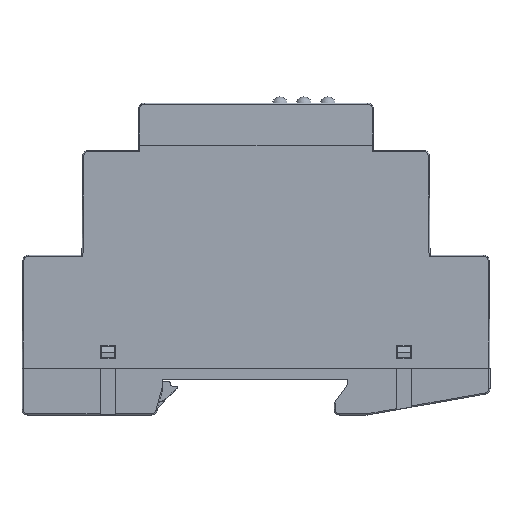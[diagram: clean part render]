
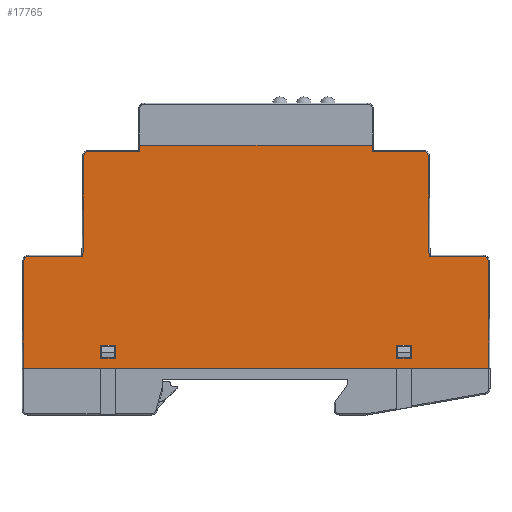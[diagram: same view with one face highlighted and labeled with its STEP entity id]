
A CAD part, top view. The second image highlights one B-rep face of the part: STEP entity #17765.
In plain terms, the highlighted planar face has unit normal (0, 0, 1).
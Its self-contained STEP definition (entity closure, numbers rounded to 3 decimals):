
#424=FACE_BOUND('',#2534,.T.);
#425=FACE_BOUND('',#2535,.T.);
#765=CIRCLE('',#19021,0.8);
#768=CIRCLE('',#19026,0.8);
#775=CIRCLE('',#19057,0.8);
#776=CIRCLE('',#19058,0.8);
#1597=FACE_OUTER_BOUND('',#2533,.T.);
#2533=EDGE_LOOP('',(#14299,#14300,#14301,#14302,#14303,#14304,#14305,#14306,
#14307,#14308,#14309,#14310,#14311,#14312,#14313,#14314));
#2534=EDGE_LOOP('',(#14315,#14316,#14317,#14318));
#2535=EDGE_LOOP('',(#14319,#14320,#14321,#14322));
#3057=LINE('',#25013,#4963);
#3061=LINE('',#25021,#4967);
#3077=LINE('',#25055,#4983);
#3082=LINE('',#25065,#4988);
#4215=LINE('',#27837,#6121);
#4267=LINE('',#28012,#6173);
#4268=LINE('',#28015,#6174);
#4270=LINE('',#28025,#6176);
#4272=LINE('',#28036,#6178);
#4274=LINE('',#28040,#6180);
#4293=LINE('',#28091,#6199);
#4294=LINE('',#28093,#6200);
#4307=LINE('',#28120,#6213);
#4308=LINE('',#28124,#6214);
#4309=LINE('',#28126,#6215);
#4310=LINE('',#28130,#6216);
#4311=LINE('',#28132,#6217);
#4312=LINE('',#28133,#6218);
#4313=LINE('',#28135,#6219);
#4314=LINE('',#28136,#6220);
#4963=VECTOR('',#20090,2.8);
#4967=VECTOR('',#20096,2.5);
#4983=VECTOR('',#20122,2.5);
#4988=VECTOR('',#20129,2.8);
#6121=VECTOR('',#22726,89.4);
#6173=VECTOR('',#22900,19.308);
#6174=VECTOR('',#22903,20.658);
#6176=VECTOR('',#22917,10.518);
#6178=VECTOR('',#22929,9.882);
#6180=VECTOR('',#22935,1.2);
#6199=VECTOR('',#22988,2.8);
#6200=VECTOR('',#22991,2.5);
#6213=VECTOR('',#23022,20.658);
#6214=VECTOR('',#23025,10.518);
#6215=VECTOR('',#23026,19.308);
#6216=VECTOR('',#23029,9.882);
#6217=VECTOR('',#23030,1.2);
#6218=VECTOR('',#23031,44.683);
#6219=VECTOR('',#23032,2.5);
#6220=VECTOR('',#23033,2.8);
#6892=VERTEX_POINT('',#25010);
#6893=VERTEX_POINT('',#25012);
#6896=VERTEX_POINT('',#25019);
#6908=VERTEX_POINT('',#25052);
#6909=VERTEX_POINT('',#25054);
#6913=VERTEX_POINT('',#25063);
#7735=VERTEX_POINT('',#27835);
#7736=VERTEX_POINT('',#27836);
#7796=VERTEX_POINT('',#28004);
#7797=VERTEX_POINT('',#28008);
#7798=VERTEX_POINT('',#28010);
#7799=VERTEX_POINT('',#28014);
#7800=VERTEX_POINT('',#28018);
#7802=VERTEX_POINT('',#28027);
#7805=VERTEX_POINT('',#28035);
#7820=VERTEX_POINT('',#28089);
#7825=VERTEX_POINT('',#28119);
#7826=VERTEX_POINT('',#28121);
#7827=VERTEX_POINT('',#28123);
#7828=VERTEX_POINT('',#28125);
#7829=VERTEX_POINT('',#28127);
#7830=VERTEX_POINT('',#28129);
#7831=VERTEX_POINT('',#28131);
#7832=VERTEX_POINT('',#28134);
#8545=EDGE_CURVE('',#6893,#6892,#3057,.T.);
#8549=EDGE_CURVE('',#6892,#6896,#3061,.T.);
#8565=EDGE_CURVE('',#6909,#6908,#3077,.T.);
#8570=EDGE_CURVE('',#6908,#6913,#3082,.T.);
#9914=EDGE_CURVE('',#7735,#7736,#4215,.T.);
#10001=EDGE_CURVE('',#7798,#7797,#4267,.T.);
#10002=EDGE_CURVE('',#7735,#7799,#4268,.T.);
#10006=EDGE_CURVE('',#7799,#7800,#765,.T.);
#10008=EDGE_CURVE('',#7800,#7798,#4270,.T.);
#10011=EDGE_CURVE('',#7797,#7802,#768,.T.);
#10013=EDGE_CURVE('',#7802,#7805,#4272,.T.);
#10016=EDGE_CURVE('',#7805,#7796,#4274,.T.);
#10041=EDGE_CURVE('',#6896,#7820,#4293,.T.);
#10042=EDGE_CURVE('',#7820,#6893,#4294,.T.);
#10055=EDGE_CURVE('',#7825,#7736,#4307,.T.);
#10056=EDGE_CURVE('',#7826,#7825,#775,.T.);
#10057=EDGE_CURVE('',#7827,#7826,#4308,.T.);
#10058=EDGE_CURVE('',#7828,#7827,#4309,.T.);
#10059=EDGE_CURVE('',#7829,#7828,#776,.T.);
#10060=EDGE_CURVE('',#7830,#7829,#4310,.T.);
#10061=EDGE_CURVE('',#7831,#7830,#4311,.T.);
#10062=EDGE_CURVE('',#7831,#7796,#4312,.T.);
#10063=EDGE_CURVE('',#6913,#7832,#4313,.T.);
#10064=EDGE_CURVE('',#7832,#6909,#4314,.T.);
#14299=ORIENTED_EDGE('',*,*,#9914,.T.);
#14300=ORIENTED_EDGE('',*,*,#10055,.F.);
#14301=ORIENTED_EDGE('',*,*,#10056,.F.);
#14302=ORIENTED_EDGE('',*,*,#10057,.F.);
#14303=ORIENTED_EDGE('',*,*,#10058,.F.);
#14304=ORIENTED_EDGE('',*,*,#10059,.F.);
#14305=ORIENTED_EDGE('',*,*,#10060,.F.);
#14306=ORIENTED_EDGE('',*,*,#10061,.F.);
#14307=ORIENTED_EDGE('',*,*,#10062,.T.);
#14308=ORIENTED_EDGE('',*,*,#10016,.F.);
#14309=ORIENTED_EDGE('',*,*,#10013,.F.);
#14310=ORIENTED_EDGE('',*,*,#10011,.F.);
#14311=ORIENTED_EDGE('',*,*,#10001,.F.);
#14312=ORIENTED_EDGE('',*,*,#10008,.F.);
#14313=ORIENTED_EDGE('',*,*,#10006,.F.);
#14314=ORIENTED_EDGE('',*,*,#10002,.F.);
#14315=ORIENTED_EDGE('',*,*,#8549,.T.);
#14316=ORIENTED_EDGE('',*,*,#10041,.T.);
#14317=ORIENTED_EDGE('',*,*,#10042,.T.);
#14318=ORIENTED_EDGE('',*,*,#8545,.T.);
#14319=ORIENTED_EDGE('',*,*,#8565,.T.);
#14320=ORIENTED_EDGE('',*,*,#8570,.T.);
#14321=ORIENTED_EDGE('',*,*,#10063,.T.);
#14322=ORIENTED_EDGE('',*,*,#10064,.T.);
#16075=PLANE('',#19056);
#17765=ADVANCED_FACE('',(#1597,#424,#425),#16075,.F.);
#19021=AXIS2_PLACEMENT_3D('',#28022,#22912,#22913);
#19026=AXIS2_PLACEMENT_3D('',#28031,#22924,#22925);
#19056=AXIS2_PLACEMENT_3D('',#28118,#23020,#23021);
#19057=AXIS2_PLACEMENT_3D('',#28122,#23023,#23024);
#19058=AXIS2_PLACEMENT_3D('',#28128,#23027,#23028);
#20090=DIRECTION('',(1.,0.,0.));
#20096=DIRECTION('',(0.,-1.,0.));
#20122=DIRECTION('',(0.,1.,0.));
#20129=DIRECTION('',(1.,0.,0.));
#22726=DIRECTION('',(1.,0.,0.));
#22900=DIRECTION('',(0.009,1.,0.));
#22903=DIRECTION('',(0.009,1.,0.));
#22912=DIRECTION('center_axis',(0.,0.,
-1.));
#22913=DIRECTION('ref_axis',(-0.704,0.71,0.));
#22917=DIRECTION('',(1.,0.,0.));
#22924=DIRECTION('center_axis',(0.,0.,
-1.));
#22925=DIRECTION('ref_axis',(-0.704,0.71,0.));
#22929=DIRECTION('',(1.,0.,0.));
#22935=DIRECTION('',(0.009,1.,0.));
#22988=DIRECTION('',(-1.,0.,0.));
#22991=DIRECTION('',(0.,1.,0.));
#23020=DIRECTION('center_axis',(0.,0.,
-1.));
#23021=DIRECTION('ref_axis',(-1.,0.,0.));
#23022=DIRECTION('',(0.009,-1.,0.));
#23023=DIRECTION('center_axis',(0.,0.,
-1.));
#23024=DIRECTION('ref_axis',(0.704,0.71,0.));
#23025=DIRECTION('',(1.,0.,0.));
#23026=DIRECTION('',(0.009,-1.,0.));
#23027=DIRECTION('center_axis',(0.,0.,
-1.));
#23028=DIRECTION('ref_axis',(0.704,0.71,0.));
#23029=DIRECTION('',(1.,0.,0.));
#23030=DIRECTION('',(0.009,-1.,0.));
#23031=DIRECTION('',(-1.,0.,0.));
#23032=DIRECTION('',(0.,-1.,0.));
#23033=DIRECTION('',(-1.,0.,0.));
#25010=CARTESIAN_POINT('',(-27.,4.41,17.8));
#25012=CARTESIAN_POINT('',(-29.8,4.41,17.8));
#25013=CARTESIAN_POINT('',(-24.532,4.41,17.8));
#25019=CARTESIAN_POINT('',(-27.,1.91,17.8));
#25021=CARTESIAN_POINT('',(-27.,16.079,17.8));
#25052=CARTESIAN_POINT('',(27.,4.41,17.8));
#25054=CARTESIAN_POINT('',(27.,1.91,17.8));
#25055=CARTESIAN_POINT('',(27.,16.079,17.8));
#25063=CARTESIAN_POINT('',(29.8,4.41,17.8));
#25065=CARTESIAN_POINT('',(5.268,4.41,17.8));
#27835=CARTESIAN_POINT('',(-44.7,0.01,17.8));
#27836=CARTESIAN_POINT('',(44.7,0.01,17.8));
#27837=CARTESIAN_POINT('',(-44.9,0.01,17.8));
#28004=CARTESIAN_POINT('',(-22.341,42.76,17.8));
#28008=CARTESIAN_POINT('',(-33.033,40.767,17.8));
#28010=CARTESIAN_POINT('',(-33.202,21.46,17.8));
#28012=CARTESIAN_POINT('',(-33.085,34.813,17.8));
#28014=CARTESIAN_POINT('',(-44.52,20.667,17.8));
#28015=CARTESIAN_POINT('',(-44.484,24.813,17.8));
#28018=CARTESIAN_POINT('',(-43.72,21.46,17.8));
#28022=CARTESIAN_POINT('Origin',(-43.72,20.66,17.8));
#28025=CARTESIAN_POINT('',(-26.332,21.46,17.8));
#28027=CARTESIAN_POINT('',(-32.233,41.56,17.8));
#28031=CARTESIAN_POINT('Origin',(-32.233,40.76,17.8));
#28035=CARTESIAN_POINT('',(-22.352,41.56,17.8));
#28036=CARTESIAN_POINT('',(-20.907,41.56,17.8));
#28040=CARTESIAN_POINT('',(-22.323,44.817,17.8));
#28089=CARTESIAN_POINT('',(-29.8,1.91,17.8));
#28091=CARTESIAN_POINT('',(-23.132,1.91,17.8));
#28093=CARTESIAN_POINT('',(-29.8,14.829,17.8));
#28118=CARTESIAN_POINT('Origin',(-19.263,27.748,17.8));
#28119=CARTESIAN_POINT('',(44.52,20.667,17.8));
#28120=CARTESIAN_POINT('',(44.482,24.981,17.8));
#28121=CARTESIAN_POINT('',(43.72,21.46,17.8));
#28122=CARTESIAN_POINT('Origin',(43.72,20.66,17.8));
#28123=CARTESIAN_POINT('',(33.202,21.46,17.8));
#28124=CARTESIAN_POINT('',(7.068,21.46,17.8));
#28125=CARTESIAN_POINT('',(33.033,40.767,17.8));
#28126=CARTESIAN_POINT('',(33.084,34.982,17.8));
#28127=CARTESIAN_POINT('',(32.233,41.56,17.8));
#28128=CARTESIAN_POINT('Origin',(32.233,40.76,17.8));
#28129=CARTESIAN_POINT('',(22.352,41.56,17.8));
#28130=CARTESIAN_POINT('',(1.643,41.56,17.8));
#28131=CARTESIAN_POINT('',(22.341,42.76,17.8));
#28132=CARTESIAN_POINT('',(22.322,44.985,17.8));
#28133=CARTESIAN_POINT('',(-20.902,42.76,17.8));
#28134=CARTESIAN_POINT('',(29.8,1.91,17.8));
#28135=CARTESIAN_POINT('',(29.8,14.829,17.8));
#28136=CARTESIAN_POINT('',(3.868,1.91,17.8));
